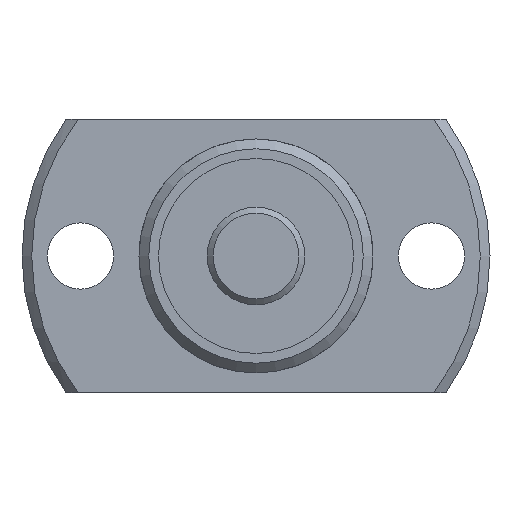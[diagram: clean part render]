
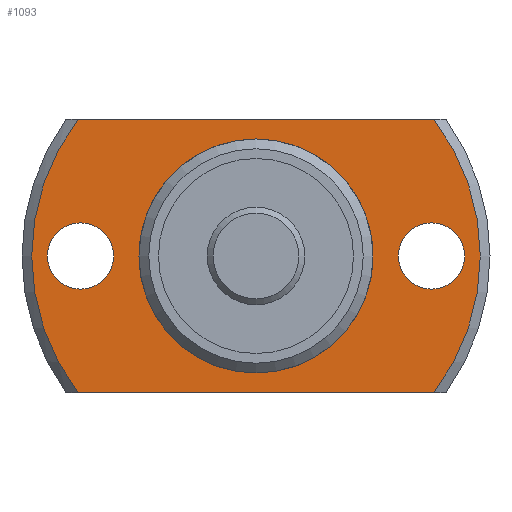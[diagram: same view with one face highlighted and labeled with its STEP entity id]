
A CAD part, left-side view. The second image highlights one B-rep face of the part: STEP entity #1093.
In plain terms, the highlighted planar face has unit normal (-1, 0, 0).
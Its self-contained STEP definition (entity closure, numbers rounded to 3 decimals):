
#110=CIRCLE('',#1212,5.8);
#113=CIRCLE('',#1216,11.5);
#119=CIRCLE('',#1227,1.7);
#120=CIRCLE('',#1228,1.7);
#121=CIRCLE('',#1229,11.5);
#249=ORIENTED_EDGE('',*,*,#509,.T.);
#250=ORIENTED_EDGE('',*,*,#510,.T.);
#251=ORIENTED_EDGE('',*,*,#498,.F.);
#252=ORIENTED_EDGE('',*,*,#511,.T.);
#253=ORIENTED_EDGE('',*,*,#512,.F.);
#254=ORIENTED_EDGE('',*,*,#513,.T.);
#255=ORIENTED_EDGE('',*,*,#492,.T.);
#492=EDGE_CURVE('',#631,#631,#110,.T.);
#498=EDGE_CURVE('',#636,#637,#113,.T.);
#509=EDGE_CURVE('',#646,#646,#119,.T.);
#510=EDGE_CURVE('',#647,#647,#120,.T.);
#511=EDGE_CURVE('',#636,#648,#721,.T.);
#512=EDGE_CURVE('',#649,#648,#121,.T.);
#513=EDGE_CURVE('',#649,#637,#722,.T.);
#631=VERTEX_POINT('',#1774);
#636=VERTEX_POINT('',#1788);
#637=VERTEX_POINT('',#1790);
#646=VERTEX_POINT('',#1824);
#647=VERTEX_POINT('',#1826);
#648=VERTEX_POINT('',#1828);
#649=VERTEX_POINT('',#1830);
#721=LINE('',#1827,#781);
#722=LINE('',#1831,#782);
#781=VECTOR('',#1464,1000.);
#782=VECTOR('',#1467,1000.);
#861=EDGE_LOOP('',(#249));
#862=EDGE_LOOP('',(#250));
#863=EDGE_LOOP('',(#251,#252,#253,#254));
#864=EDGE_LOOP('',(#255));
#967=FACE_BOUND('',#861,.T.);
#968=FACE_BOUND('',#862,.T.);
#969=FACE_BOUND('',#863,.T.);
#970=FACE_BOUND('',#864,.T.);
#1041=PLANE('',#1226);
#1093=ADVANCED_FACE('',(#967,#968,#969,#970),#1041,.F.);
#1212=AXIS2_PLACEMENT_3D('',#1773,#1426,#1427);
#1216=AXIS2_PLACEMENT_3D('',#1789,#1436,#1437);
#1226=AXIS2_PLACEMENT_3D('',#1822,#1458,#1459);
#1227=AXIS2_PLACEMENT_3D('',#1823,#1460,#1461);
#1228=AXIS2_PLACEMENT_3D('',#1825,#1462,#1463);
#1229=AXIS2_PLACEMENT_3D('',#1829,#1465,#1466);
#1426=DIRECTION('',(1.,0.,0.));
#1427=DIRECTION('',(0.,0.,-1.));
#1436=DIRECTION('',(1.,0.,0.));
#1437=DIRECTION('',(0.,0.,-1.));
#1458=DIRECTION('',(1.,0.,0.));
#1459=DIRECTION('',(0.,0.,-1.));
#1460=DIRECTION('',(1.,0.,0.));
#1461=DIRECTION('',(0.,0.,-1.));
#1462=DIRECTION('',(1.,0.,0.));
#1463=DIRECTION('',(0.,0.,-1.));
#1464=DIRECTION('',(0.,-1.,0.));
#1465=DIRECTION('',(1.,0.,0.));
#1466=DIRECTION('',(0.,0.,-1.));
#1467=DIRECTION('',(0.,1.,0.));
#1773=CARTESIAN_POINT('',(18.,0.,0.));
#1774=CARTESIAN_POINT('',(18.,0.,-5.8));
#1788=CARTESIAN_POINT('',(18.,9.124,-7.));
#1789=CARTESIAN_POINT('',(18.,0.,0.));
#1790=CARTESIAN_POINT('',(18.,9.124,7.));
#1822=CARTESIAN_POINT('',(18.,5.8,0.));
#1823=CARTESIAN_POINT('',(18.,-9.,0.));
#1824=CARTESIAN_POINT('',(18.,-9.,-1.7));
#1825=CARTESIAN_POINT('',(18.,9.,0.));
#1826=CARTESIAN_POINT('',(18.,9.,-1.7));
#1827=CARTESIAN_POINT('',(18.,5.8,-7.));
#1828=CARTESIAN_POINT('',(18.,-9.124,-7.));
#1829=CARTESIAN_POINT('',(18.,0.,0.));
#1830=CARTESIAN_POINT('',(18.,-9.124,7.));
#1831=CARTESIAN_POINT('',(18.,5.8,7.));
